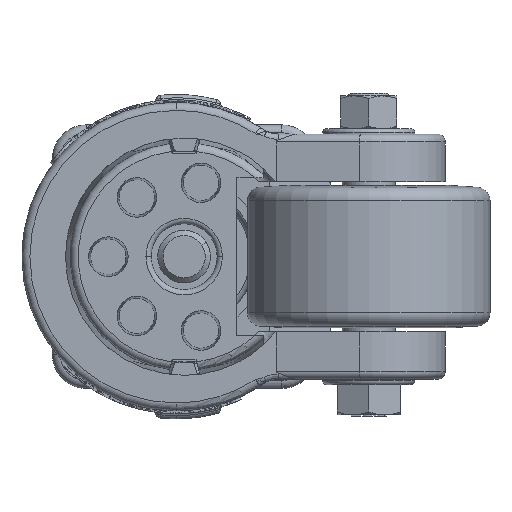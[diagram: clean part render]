
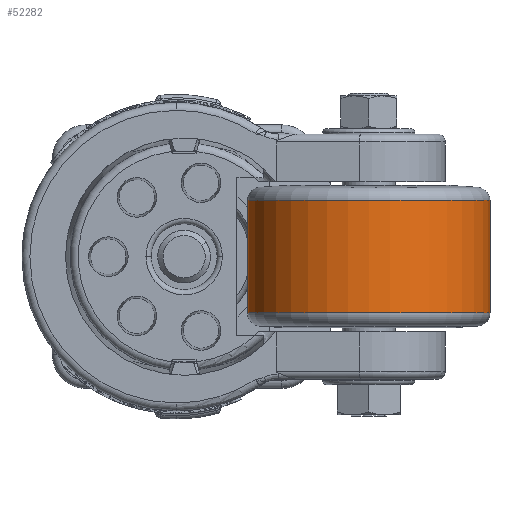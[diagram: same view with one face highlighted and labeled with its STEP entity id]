
A CAD part, front view. The second image highlights one B-rep face of the part: STEP entity #52282.
In plain terms, the highlighted cylindrical face has radius 46 mm (diameter 92 mm), a partial arc.
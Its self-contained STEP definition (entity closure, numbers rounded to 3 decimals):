
#4089 = VERTEX_POINT ( 'NONE', #55399 ) ;
#7399 = DIRECTION ( 'NONE',  ( -1., 0., 0. ) ) ;
#8072 = EDGE_CURVE ( 'NONE', #79500, #22142, #18534, .T. ) ;
#10726 = CARTESIAN_POINT ( 'NONE',  ( 70., 25., 21.322 ) ) ;
#12990 = DIRECTION ( 'NONE',  ( 0., 0., -1. ) ) ;
#13597 = DIRECTION ( 'NONE',  ( 0., 0., 1. ) ) ;
#18534 = CIRCLE ( 'NONE', #90348, 46. ) ;
#20606 = CARTESIAN_POINT ( 'NONE',  ( 116., 25., -21.322 ) ) ;
#22142 = VERTEX_POINT ( 'NONE', #89622 ) ;
#23506 = EDGE_CURVE ( 'NONE', #4089, #22142, #46714, .T. ) ;
#26350 = CYLINDRICAL_SURFACE ( 'NONE', #83494, 46. ) ;
#27331 = ORIENTED_EDGE ( 'NONE', *, *, #80577, .T. ) ;
#27631 = AXIS2_PLACEMENT_3D ( 'NONE', #55484, #13597, #62473 ) ;
#29860 = CARTESIAN_POINT ( 'NONE',  ( 24., 25., 36.757 ) ) ;
#30302 = VECTOR ( 'NONE', #78660, 1000. ) ;
#31592 = DIRECTION ( 'NONE',  ( 0., 0., 1. ) ) ;
#31758 = CARTESIAN_POINT ( 'NONE',  ( 116., 25., 36.757 ) ) ;
#38610 = CARTESIAN_POINT ( 'NONE',  ( 70., 25., 36.757 ) ) ;
#38772 = DIRECTION ( 'NONE',  ( 0., 0., 1. ) ) ;
#41807 = ORIENTED_EDGE ( 'NONE', *, *, #8072, .T. ) ;
#44816 = VECTOR ( 'NONE', #38772, 1000. ) ;
#45664 = DIRECTION ( 'NONE',  ( 1., 0., 0. ) ) ;
#46714 = LINE ( 'NONE', #29860, #30302 ) ;
#52282 = ADVANCED_FACE ( 'NONE', ( #63481 ), #26350, .T. ) ;
#53899 = CARTESIAN_POINT ( 'NONE',  ( 116., 25., 21.322 ) ) ;
#55399 = CARTESIAN_POINT ( 'NONE',  ( 24., 25., -21.322 ) ) ;
#55484 = CARTESIAN_POINT ( 'NONE',  ( 70., 25., -21.322 ) ) ;
#56043 = EDGE_CURVE ( 'NONE', #75491, #79500, #63327, .T. ) ;
#58281 = CIRCLE ( 'NONE', #27631, 46. ) ;
#62473 = DIRECTION ( 'NONE',  ( -1., 0., 0. ) ) ;
#63327 = LINE ( 'NONE', #31758, #44816 ) ;
#63481 = FACE_OUTER_BOUND ( 'NONE', #67973, .T. ) ;
#66954 = ORIENTED_EDGE ( 'NONE', *, *, #23506, .F. ) ;
#67973 = EDGE_LOOP ( 'NONE', ( #66954, #27331, #84992, #41807 ) ) ;
#75491 = VERTEX_POINT ( 'NONE', #20606 ) ;
#78660 = DIRECTION ( 'NONE',  ( 0., 0., 1. ) ) ;
#79500 = VERTEX_POINT ( 'NONE', #53899 ) ;
#80577 = EDGE_CURVE ( 'NONE', #4089, #75491, #58281, .T. ) ;
#83494 = AXIS2_PLACEMENT_3D ( 'NONE', #38610, #31592, #45664 ) ;
#84992 = ORIENTED_EDGE ( 'NONE', *, *, #56043, .T. ) ;
#89622 = CARTESIAN_POINT ( 'NONE',  ( 24., 25., 21.322 ) ) ;
#90348 = AXIS2_PLACEMENT_3D ( 'NONE', #10726, #12990, #7399 ) ;
